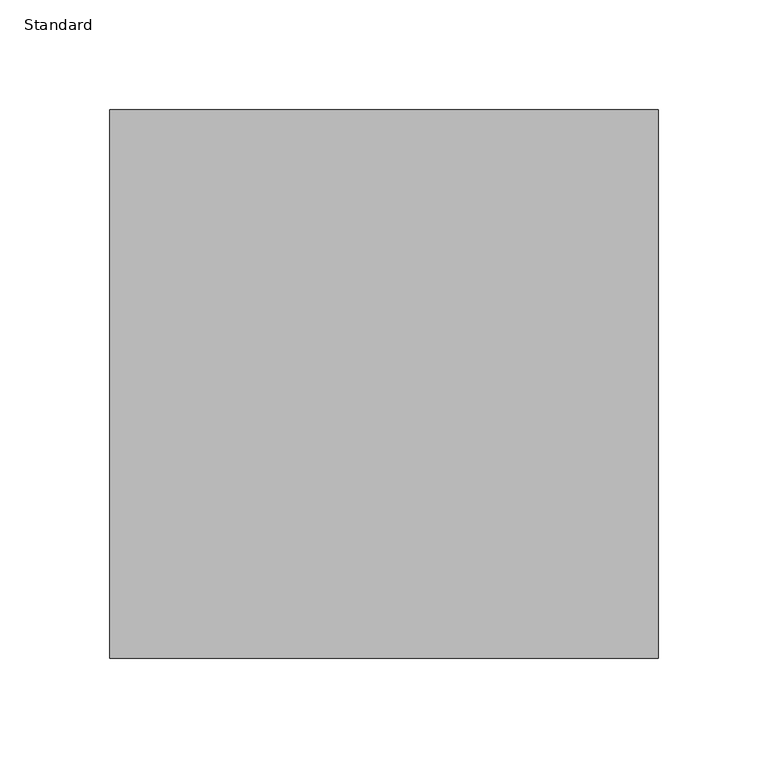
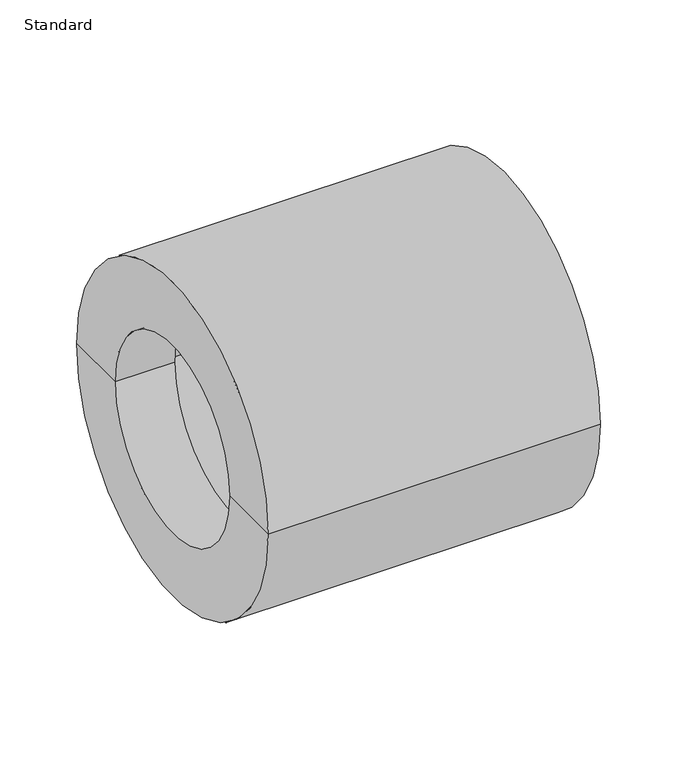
"""IFC4 building model written with IfcOpenShell, lengths in millimetres: pipe fitting geometry, Durapipe_PipeFitting_PVC_ReducingBush : Standard."""

from ifc_helpers import new_model, si_unit, frame, origin, place, context, project, spatial, polyline, circle_curve, source, transform, mapped, element, save
from ifc_brep_helpers import plane_surface, cylinder_surface, revolved_surface, advanced_brep


def standard_a4762596(model_context):
    return source(origin(), model_context, "Body", "AdvancedBrep", [
        advanced_brep(
        [(-45.0, -75.0, 0.0), (-45.0, 75.0, 0.0), (-45.0, 125.0, 0.0), (-45.0, -125.0, 0.0), (0.0, -75.0, 0.0), (0.0, 75.0, 0.0), (0.0, -80.0, 0.0), (0.0, 80.0, 0.0), (205.0, -80.0, 0.0), (205.0, 80.0, 0.0), (205.0, -125.0, 0.0), (205.0, 125.0, 0.0)],
        [
            (0, 1, circle_curve(frame((-45.0, 0.0, 0.0), z_axis=(1.0, 0.0, 0.0), x_axis=(0.0, 1.0, 0.0)), 75.0)),
            (1, 2),
            (2, 3, circle_curve(frame((-45.0, 0.0, 0.0), z_axis=(-1.0, 0.0, 0.0), x_axis=(0.0, 1.0, 0.0)), 125.0)),
            (3, 0),
            (1, 0, circle_curve(frame((-45.0, 0.0, 0.0), z_axis=(1.0, 0.0, 0.0), x_axis=(0.0, 1.0, 0.0)), 75.0)),
            (3, 2, circle_curve(frame((-45.0, 0.0, 0.0), z_axis=(-1.0, 0.0, 0.0), x_axis=(0.0, 1.0, 0.0)), 125.0)),
            (4, 5, circle_curve(frame((0.0, 0.0, 0.0), z_axis=(1.0, 0.0, 0.0), x_axis=(0.0, 1.0, 0.0)), 75.0)),
            (5, 1),
            (0, 4),
            (5, 4, circle_curve(frame((0.0, 0.0, 0.0), z_axis=(1.0, 0.0, 0.0), x_axis=(0.0, 1.0, 0.0)), 75.0)),
            (6, 7, circle_curve(frame((0.0, 0.0, 0.0), z_axis=(1.0, 0.0, 0.0), x_axis=(0.0, 1.0, 0.0)), 80.0)),
            (7, 5),
            (4, 6),
            (7, 6, circle_curve(frame((0.0, 0.0, 0.0), z_axis=(1.0, 0.0, 0.0), x_axis=(0.0, 1.0, 0.0)), 80.0)),
            (8, 9, circle_curve(frame((205.0, 0.0, 0.0), z_axis=(1.0, 0.0, 0.0), x_axis=(0.0, 1.0, 0.0)), 80.0)),
            (9, 7),
            (6, 8),
            (9, 8, circle_curve(frame((205.0, 0.0, 0.0), z_axis=(1.0, 0.0, 0.0), x_axis=(0.0, 1.0, 0.0)), 80.0)),
            (10, 11, circle_curve(frame((205.0, 0.0, 0.0), z_axis=(1.0, 0.0, 0.0), x_axis=(0.0, 1.0, 0.0)), 125.0)),
            (11, 9),
            (8, 10),
            (11, 10, circle_curve(frame((205.0, 0.0, 0.0), z_axis=(1.0, 0.0, 0.0), x_axis=(0.0, 1.0, 0.0)), 125.0)),
            (2, 11),
            (10, 3),
        ],
        [
            plane_surface(frame((-45.0, 0.0, 0.0), z_axis=(-1.0, 0.0, 0.0), x_axis=(0.0, 1.0, 0.0))),
            revolved_surface(polyline([(-45.0, 75.0, 0.0), (0.0, 75.0, 0.0)]), (2191.0, 0.0, 0.0), (-1.0, 0.0, 0.0)),
            plane_surface(frame((0.0, 0.0, 0.0), z_axis=(1.0, 0.0, 0.0), x_axis=(0.0, 1.0, 0.0))),
            revolved_surface(polyline([(0.0, 80.0, 0.0), (205.0, 80.0, 0.0)]), (2191.0, 0.0, 0.0), (-1.0, 0.0, 0.0)),
            plane_surface(frame((205.0, 0.0, 0.0), z_axis=(1.0, 0.0, 0.0), x_axis=(0.0, 1.0, 0.0))),
            cylinder_surface(frame((2191.0, 0.0, 0.0), z_axis=(-1.0, 0.0, 0.0), x_axis=(0.0, 1.0, 0.0)), 125.0),
        ],
        [
            (0, [[1, 2, 3, 4]]),
            (0, [[5, -4, 6, -2]]),
            (1, [[7, 8, -1, 9]]),
            (1, [[10, -9, -5, -8]]),
            (2, [[11, 12, -7, 13]]),
            (2, [[14, -13, -10, -12]]),
            (3, [[15, 16, -11, 17]]),
            (3, [[18, -17, -14, -16]]),
            (4, [[19, 20, -15, 21]]),
            (4, [[22, -21, -18, -20]]),
            (5, [[-3, 23, -19, 24]]),
            (5, [[-6, -24, -22, -23]]),
        ],
    ),
    ])


if __name__ == "__main__":
    model = new_model("IFC4")
    model_context = context("Model", 3, world=origin())
    ifc_project = project(units=[si_unit("LENGTHUNIT", "METRE", prefix="MILLI")], contexts=[model_context])
    site = spatial("IfcSite", under=ifc_project)
    building = spatial("IfcBuilding", under=site)
    placement = place(None, origin())
    standard_shape = standard_a4762596(model_context)
    element("IfcPipeFitting", 1, ObjectType="Durapipe_PipeFitting_PVC_ReducingBush : Standard", at=placement, inside=building, context=model_context, shape_type="MappedRepresentation", body=[
        mapped(standard_shape, transform((0.0, 0.0, 0.0), x_axis=(1.0, 0.0, 0.0), y_axis=(0.0, 1.0, 0.0), z_axis=(0.0, 0.0, 1.0))),
    ])
    save(model, "model.ifc")
